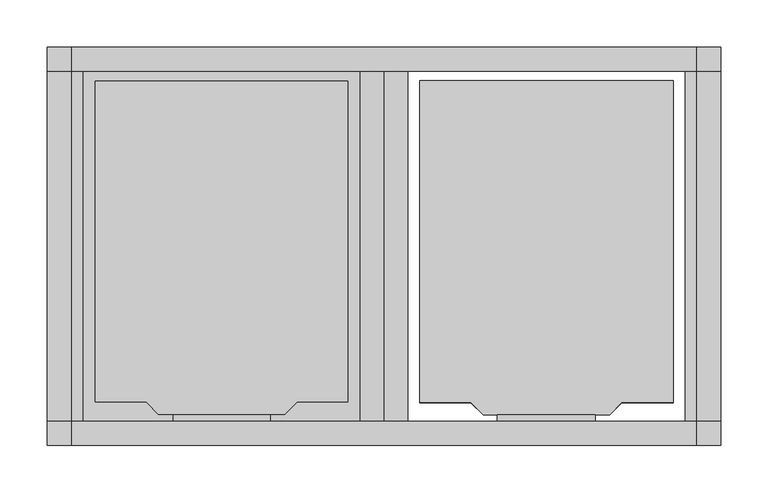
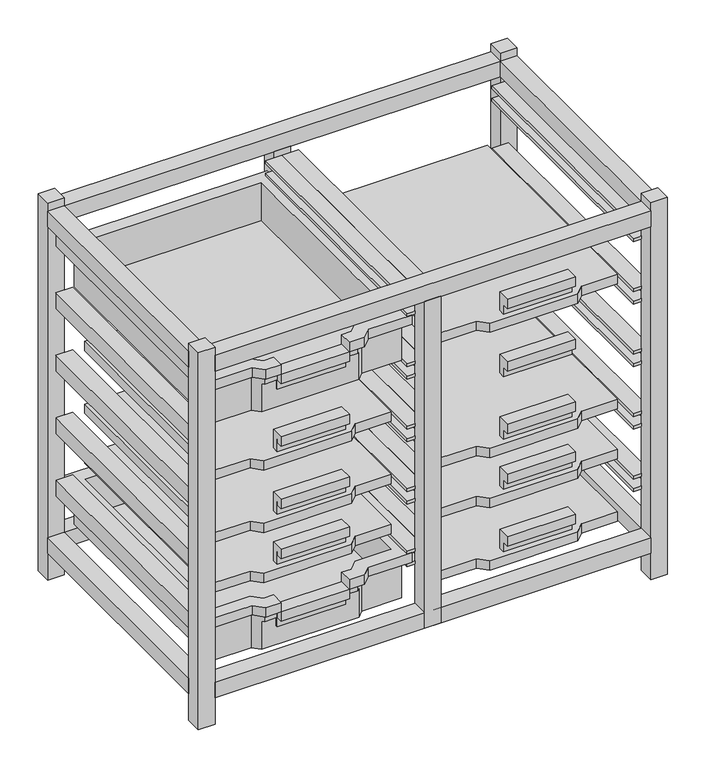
"""IFC4 building model written with IfcOpenShell, lengths in millimetres: furniture geometry, BIMHealth-Trolley_Gratnell-v1 : BIMHealth-Trolley_Gratnell-v1."""

import ifcopenshell
import ifcopenshell.guid

model = None  # the IFC model being written
_history = None  # IfcOwnerHistory: only IFC2X3 demands one
_inside = {}  # id of a spatial element -> (the spatial element, [elements in it])
_under = {}  # id of a project, library or spatial element -> (it, [spatial elements below it])
_declared = {}  # id of a project -> (the project, [libraries it declares])
_typed = {}  # id of a type object -> (the type object, [elements of that type])
_made_of = {}  # id of a material, layer set ... -> (it, [elements and type objects made of it])


def new_model(schema):
    """Start an empty IFC model of exactly this schema.

    Asked for "IFC4X3", IfcOpenShell would pick the latest addendum, in which some entities
    have other attributes; the version numbers below select the first issue.
    IFC2X3 requires an IfcOwnerHistory on every rooted entity: one is made here for all.
    """
    global model, _history
    if schema == "IFC4X3":
        model = ifcopenshell.file(schema_version=(4, 3, 0, 0))
    else:
        model = ifcopenshell.file(schema=schema)
    _inside.clear()
    _under.clear()
    _declared.clear()
    _typed.clear()
    _made_of.clear()
    _history = None
    if model.schema == "IFC2X3":
        org = make("IfcOrganization", Name="unknown")
        user = make(
            "IfcPersonAndOrganization",
            ThePerson=make("IfcPerson", FamilyName="unknown"),
            TheOrganization=org,
        )
        app = make(
            "IfcApplication",
            ApplicationDeveloper=org,
            Version="unknown",
            ApplicationFullName="unknown",
            ApplicationIdentifier="unknown",
        )
        _history = make(
            "IfcOwnerHistory",
            OwningUser=user,
            OwningApplication=app,
            ChangeAction="ADDED",
            CreationDate=0,
        )
    return model


def make(cls, **values):
    """One entity of the class cls with the attributes given. An attribute that is None is left unset."""
    return model.create_entity(
        cls, **{name: value for name, value in values.items() if value is not None}
    )


def rooted(cls, **values):
    """An entity with a GlobalId (a new one), such as an element, a storey or a relation."""
    return make(cls, GlobalId=ifcopenshell.guid.new(), OwnerHistory=_history, **values)


def si_unit(unit_type, name, prefix=None):
    """IfcSIUnit, for example si_unit("LENGTHUNIT", "METRE", prefix="MILLI")."""
    return make("IfcSIUnit", UnitType=unit_type, Prefix=prefix, Name=name)


def assignment(units):
    """IfcUnitAssignment: the units of a project."""
    return None if units is None else make("IfcUnitAssignment", Units=units)


def point(xyz):
    """IfcCartesianPoint."""
    return None if xyz is None else make("IfcCartesianPoint", Coordinates=xyz)


def direction(xyz):
    """IfcDirection."""
    return None if xyz is None else make("IfcDirection", DirectionRatios=xyz)


def frame(location, z_axis=None, x_axis=None):
    """IfcAxis2Placement3D, a coordinate frame: its origin and axes. An axis left out is left unset."""
    return make(
        "IfcAxis2Placement3D",
        Location=point(location),
        Axis=direction(z_axis),
        RefDirection=direction(x_axis),
    )


def origin():
    """The frame at (0, 0, 0) with its axes left unset."""
    return frame((0.0, 0.0, 0.0))


def place(relative_to, where):
    """IfcLocalPlacement: puts the frame where relative to a parent placement (None: the world)."""
    return make(
        "IfcLocalPlacement", PlacementRelTo=relative_to, RelativePlacement=where
    )


def context(
    kind, dimensions, precision=None, world=None, true_north=None, identifier=None
):
    """IfcGeometricRepresentationContext, for example the 3D "Model" context."""
    return make(
        "IfcGeometricRepresentationContext",
        ContextIdentifier=identifier,
        ContextType=kind,
        CoordinateSpaceDimension=dimensions,
        Precision=precision,
        WorldCoordinateSystem=world,
        TrueNorth=true_north,
    )


def project(units=None, contexts=None):
    """IfcProject with its units and contexts."""
    return rooted(
        "IfcProject",
        Name="project",
        RepresentationContexts=contexts,
        UnitsInContext=assignment(units),
    )


def spatial(cls, under=None, at=None, **own):
    """A site, building, storey or space (cls), placed at a placement, below another one or the project."""
    s = rooted(cls, ObjectPlacement=at, **own)
    if under is not None:
        _under.setdefault(under.id(), (under, []))[1].append(s)
    return s


def polyline(points):
    """IfcPolyline through the points."""
    return make("IfcPolyline", Points=[point(p) for p in points])


def outline(outer, holes=None, kind="AREA"):
    """IfcArbitraryClosedProfileDef: a profile drawn as a closed curve; with holes, ...WithVoids."""
    if holes is None:
        return make("IfcArbitraryClosedProfileDef", ProfileType=kind, OuterCurve=outer)
    return make(
        "IfcArbitraryProfileDefWithVoids",
        ProfileType=kind,
        OuterCurve=outer,
        InnerCurves=holes,
    )


def extrude(swept, where, along, depth):
    """IfcExtrudedAreaSolid: the profile swept, set in the frame where, extruded along a direction by depth."""
    return make(
        "IfcExtrudedAreaSolid",
        SweptArea=swept,
        Position=where,
        ExtrudedDirection=direction(along),
        Depth=depth,
    )


def faces_of(points, faces, orient=None, outer=None):
    """IfcFace entities. A face is a list of loops; a loop is a list of indices into points, from 0.

    orient and outer hold one flag for each loop. By default every Orientation is true, the
    first loop of a face is its IfcFaceOuterBound and the others are IfcFaceBound.
    """
    made = []
    for i, loops in enumerate(faces):
        bounds = []
        for j, loop in enumerate(loops):
            is_outer = j == 0 if outer is None else outer[i][j]
            bounds.append(
                make(
                    "IfcFaceOuterBound" if is_outer else "IfcFaceBound",
                    Bound=make("IfcPolyLoop", Polygon=[points[k] for k in loop]),
                    Orientation=True if orient is None else orient[i][j],
                )
            )
        made.append(make("IfcFace", Bounds=bounds))
    return made


def faceted_brep(points, faces, orient=None, outer=None, voids=None):
    """IfcFacetedBrep: a solid bounded by flat faces; with voids (closed shells), ...WithVoids."""
    shared = [point(p) for p in points]
    hull = make("IfcClosedShell", CfsFaces=faces_of(shared, faces, orient, outer))
    if voids is None:
        return make("IfcFacetedBrep", Outer=hull)
    return make(
        "IfcFacetedBrepWithVoids",
        Outer=hull,
        Voids=[
            make(cls, CfsFaces=faces_of(shared, fs, o, b)) for cls, fs, o, b in voids
        ],
    )


def shape(context_of_items, identifier, shape_type, items):
    """IfcShapeRepresentation: the items that make up one representation, for example the "Body"."""
    return make(
        "IfcShapeRepresentation",
        ContextOfItems=context_of_items,
        RepresentationIdentifier=identifier,
        RepresentationType=shape_type,
        Items=items,
    )


def source(mapping_origin, context_of_items, identifier, shape_type, items):
    """IfcRepresentationMap: a shape defined once, which mapped items show again and again."""
    return make(
        "IfcRepresentationMap",
        MappingOrigin=mapping_origin,
        MappedRepresentation=shape(context_of_items, identifier, shape_type, items),
    )


def transform(
    local_origin,
    x_axis=None,
    y_axis=None,
    z_axis=None,
    scale=None,
    scale2=None,
    scale3=None,
    uniform=True,
):
    """IfcCartesianTransformationOperator3D, or its non-uniform kind. x_axis, y_axis, z_axis: its Axis1, 2, 3."""
    if uniform:
        return make(
            "IfcCartesianTransformationOperator3D",
            Axis1=direction(x_axis),
            Axis2=direction(y_axis),
            LocalOrigin=point(local_origin),
            Scale=scale,
            Axis3=direction(z_axis),
        )
    return make(
        "IfcCartesianTransformationOperator3DnonUniform",
        Axis1=direction(x_axis),
        Axis2=direction(y_axis),
        LocalOrigin=point(local_origin),
        Scale=scale,
        Axis3=direction(z_axis),
        Scale2=scale2,
        Scale3=scale3,
    )


def mapped(mapping_source, mapping_target):
    """IfcMappedItem: shows the shape of a source again, moved by a transform."""
    return make(
        "IfcMappedItem", MappingSource=mapping_source, MappingTarget=mapping_target
    )


def made_of(thing, what):
    """Note that an element or type object is made of a material, layer set ...; save() writes the relation."""
    if what is not None:
        _made_of.setdefault(what.id(), (what, []))[1].append(thing)
    return thing


def element(
    cls,
    number,
    at=None,
    inside=None,
    cuts=None,
    type_object=None,
    material=None,
    context=None,
    identifier="Body",
    shape_type=None,
    held_by="IfcProductDefinitionShape",
    body=None,
    shapes=None,
    **own,
):
    """One element of the class cls, such as IfcWall. Its Tag is "e" and its number.

    at: its placement. inside: the storey or other place that contains it. cuts: it is an
    opening in that element (IfcRelVoidsElement). A single representation is given by context,
    identifier, shape_type and body (its items); several are given by shapes. held_by: the class
    of the entity that holds the representations. save() writes the other relations.
    """
    e = rooted(cls, Tag="e%d" % number, ObjectPlacement=at, **own)
    if body is not None:
        shapes = [shape(context, identifier, shape_type, body)]
    if shapes is not None:
        e.Representation = make(held_by, Representations=shapes)
    if inside is not None:
        _inside.setdefault(inside.id(), (inside, []))[1].append(e)
    if cuts is not None:
        rooted(
            "IfcRelVoidsElement", RelatingBuildingElement=cuts, RelatedOpeningElement=e
        )
    if type_object is not None:
        _typed.setdefault(type_object.id(), (type_object, []))[1].append(e)
    return made_of(e, material)


def aggregate(whole, parts):
    """IfcRelAggregates: a whole, such as a stair, and the parts it consists of."""
    return rooted("IfcRelAggregates", RelatingObject=whole, RelatedObjects=parts)


def save(model, path):
    """Write the relations noted so far, then the file.

    IfcRelAggregates (storeys below a building ...), IfcRelContainedInSpatialStructure (elements
    in a storey), IfcRelDefinesByType, IfcRelAssociatesMaterial and IfcRelDeclares: one each for
    every whole, place, type object, material and project.
    """
    for whole, parts in _under.values():
        aggregate(whole, parts)
    for where, things in _inside.values():
        rooted(
            "IfcRelContainedInSpatialStructure",
            RelatedElements=things,
            RelatingStructure=where,
        )
    for kind, things in _typed.values():
        rooted("IfcRelDefinesByType", RelatedObjects=things, RelatingType=kind)
    for what, things in _made_of.values():
        rooted("IfcRelAssociatesMaterial", RelatedObjects=things, RelatingMaterial=what)
    for by, libraries in _declared.values():
        rooted("IfcRelDeclares", RelatingContext=by, RelatedDefinitions=libraries)
    model.write(path)


def furniture_500bc087(model_context):
    return source(origin(), model_context, "Body", "SolidModel", [
        faceted_brep([(-119.5710678, -187.9289322, 622.2775188), (-119.5710678, -187.9289322, 642.2775188), (-119.5710678, -189.1789322, 642.2775188), (-119.5710678, -189.1789322, 637.2775188), (-119.5710678, -197.9289322, 637.2775188), (-119.5710678, -197.9289322, 652.2775188), (-119.5710678, -177.9289322, 652.2775188), (-119.5710678, -177.9289322, 607.2775188), (-119.5710678, -185.0, 607.2775188), (-119.5710678, -185.0, 622.2775188), (-86.982233, -176.25, 637.2775188), (-86.982233, -176.25, 642.2775188), (-26.25, -176.25, 642.2775188), (-26.25, -176.25, 637.2775188), (-27.5, -175.0, 642.2775188), (-87.5, -175.0, 642.2775188), (-87.5, -175.0, 577.2775188), (-27.5, -175.0, 577.2775188), (-26.25, 186.25, 642.2775188), (-26.25, 186.25, 637.2775188), (-27.5, 185.0, 642.2775188), (-27.5, 185.0, 577.2775188), (-316.25, 186.25, 642.2775188), (-316.25, 186.25, 637.2775188), (-315.0, 185.0, 642.2775188), (-315.0, 185.0, 577.2775188), (-316.25, -176.25, 642.2775188), (-316.25, -176.25, 637.2775188), (-315.0, -175.0, 642.2775188), (-315.0, -175.0, 577.2775188), (-222.9289322, -177.9289322, 652.2775188), (-222.9289322, -197.9289322, 652.2775188), (-222.9289322, -197.9289322, 637.2775188), (-222.9289322, -189.1789322, 637.2775188), (-222.9289322, -189.1789322, 642.2775188), (-222.9289322, -187.9289322, 642.2775188), (-222.9289322, -187.9289322, 622.2775188), (-222.9289322, -185.0, 622.2775188), (-222.9289322, -185.0, 607.2775188), (-222.9289322, -177.9289322, 607.2775188), (-255.517767, -176.25, 642.2775188), (-255.517767, -176.25, 637.2775188), (-255.0, -175.0, 642.2775188), (-255.0, -175.0, 577.2775188), (-83.3578644, -185.0, 652.2775188), (-83.3578644, -185.0, 637.2775188), (-17.5, -185.0, 637.2775188), (-17.5, -185.0, 652.2775188), (-91.6421356, -165.0, 652.2775188), (-37.5, -165.0, 652.2775188), (-37.5, -165.0, 577.2775188), (-91.6421356, -165.0, 577.2775188), (-17.5, 195.0, 637.2775188), (-17.5, 195.0, 652.2775188), (-37.5, 175.0, 652.2775188), (-37.5, 175.0, 577.2775188), (-325.0, 195.0, 637.2775188), (-325.0, 195.0, 652.2775188), (-305.0, 175.0, 652.2775188), (-305.0, 175.0, 577.2775188), (-325.0, -185.0, 637.2775188), (-325.0, -185.0, 652.2775188), (-305.0, -165.0, 652.2775188), (-305.0, -165.0, 577.2775188), (-259.1421356, -185.0, 637.2775188), (-259.1421356, -185.0, 652.2775188), (-250.8578644, -165.0, 652.2775188), (-250.8578644, -165.0, 577.2775188), (-100.4289322, -187.9289322, 642.2775188), (-100.4289322, -187.9289322, 622.2775188), (-97.5, -185.0, 622.2775188), (-97.5, -185.0, 577.2775188), (-99.9111652, -189.1789322, 637.2775188), (-99.9111652, -189.1789322, 642.2775188), (-96.2867966, -197.9289322, 652.2775188), (-96.2867966, -197.9289322, 637.2775188), (-104.5710678, -177.9289322, 652.2775188), (-104.5710678, -177.9289322, 577.2775188), (-242.0710678, -187.9289322, 622.2775188), (-242.0710678, -187.9289322, 642.2775188), (-245.0, -185.0, 577.2775188), (-245.0, -185.0, 622.2775188), (-242.5888348, -189.1789322, 642.2775188), (-242.5888348, -189.1789322, 637.2775188), (-246.2132034, -197.9289322, 637.2775188), (-246.2132034, -197.9289322, 652.2775188), (-237.9289322, -177.9289322, 652.2775188), (-237.9289322, -177.9289322, 577.2775188)], [[[0, 1, 2, 3, 4, 5, 6, 7, 8, 9]], [[10, 11, 12, 13]], [[14, 15, 16, 17]], [[13, 12, 18, 19]], [[20, 14, 17, 21]], [[19, 18, 22, 23]], [[24, 20, 21, 25]], [[23, 22, 26, 27]], [[28, 24, 25, 29]], [[30, 31, 32, 33, 34, 35, 36, 37, 38, 39]], [[27, 26, 40, 41]], [[42, 28, 29, 43]], [[44, 45, 46, 47]], [[48, 49, 50, 51]], [[47, 46, 52, 53]], [[50, 49, 54, 55]], [[53, 52, 56, 57]], [[55, 54, 58, 59]], [[57, 56, 60, 61]], [[59, 58, 62, 63]], [[61, 60, 64, 65]], [[63, 62, 66, 67]], [[68, 69, 70, 71, 16, 15]], [[11, 10, 72, 73]], [[45, 44, 74, 75]], [[76, 48, 51, 77]], [[78, 79, 42, 43, 80, 81]], [[41, 40, 82, 83]], [[65, 64, 84, 85]], [[67, 66, 86, 87]], [[1, 0, 69, 68]], [[2, 1, 68, 15, 14, 20, 24, 28, 42, 79, 35, 34, 82, 40, 26, 22, 18, 12, 11, 73]], [[3, 2, 73, 72]], [[4, 3, 72, 10, 13, 19, 23, 27, 41, 83, 33, 32, 84, 64, 60, 56, 52, 46, 45, 75]], [[5, 4, 75, 74]], [[6, 5, 74, 44, 47, 53, 57, 61, 65, 85, 31, 30, 86, 66, 62, 58, 54, 49, 48, 76]], [[6, 76, 77, 87, 86, 30, 39, 7]], [[69, 0, 9, 70]], [[36, 78, 81, 37]], [[36, 35, 79, 78]], [[34, 33, 83, 82]], [[32, 31, 85, 84]], [[9, 8, 38, 37, 81, 80, 71, 70]], [[7, 39, 38, 8]], [[21, 17, 16, 71, 80, 43, 29, 25], [55, 59, 63, 67, 87, 77, 51, 50]]]),
        extrude(outline(polyline([(-187.9289322, 607.2775188), (-187.9289322, 627.2775188), (-189.1789322, 627.2775188), (-189.1789322, 622.2775188), (-197.9289322, 622.2775188), (-197.9289322, 637.2775188), (-177.9289322, 637.2775188), (-177.9289322, 607.2775188), (-187.9289322, 607.2775188)])), frame((119.5710678, 0.0, 0.0), z_axis=(1.0, 0.0, 0.0), x_axis=(0.0, 1.0, 0.0)), (0.0, 0.0, 1.0), 103.3578644),
        extrude(outline(polyline([(37.5, 175.0), (305.0, 175.0), (305.0, -165.0), (250.8578644, -165.0), (237.9289322, -177.9289322), (104.5710678, -177.9289322), (91.6421356, -165.0), (37.5, -165.0), (37.5, 175.0)])), frame((0.0, 0.0, 577.2775188), z_axis=(0.0, 0.0, 1.0), x_axis=(1.0, 0.0, 0.0)), (0.0, 0.0, 1.0), 15.0),
        extrude(outline(polyline([(-187.9289322, 507.2775188), (-187.9289322, 527.2775188), (-189.1789322, 527.2775188), (-189.1789322, 522.2775188), (-197.9289322, 522.2775188), (-197.9289322, 537.2775188), (-177.9289322, 537.2775188), (-177.9289322, 507.2775188), (-187.9289322, 507.2775188)])), frame((119.5710678, 0.0, 0.0), z_axis=(1.0, 0.0, 0.0), x_axis=(0.0, 1.0, 0.0)), (0.0, 0.0, 1.0), 103.3578644),
        extrude(outline(polyline([(-187.9289322, 407.2775188), (-187.9289322, 427.2775188), (-189.1789322, 427.2775188), (-189.1789322, 422.2775188), (-197.9289322, 422.2775188), (-197.9289322, 437.2775188), (-177.9289322, 437.2775188), (-177.9289322, 407.2775188), (-187.9289322, 407.2775188)])), frame((119.5710678, 0.0, 0.0), z_axis=(1.0, 0.0, 0.0), x_axis=(0.0, 1.0, 0.0)), (0.0, 0.0, 1.0), 103.3578644),
        extrude(outline(polyline([(37.5, 175.0), (305.0, 175.0), (305.0, -165.0), (250.8578644, -165.0), (237.9289322, -177.9289322), (104.5710678, -177.9289322), (91.6421356, -165.0), (37.5, -165.0), (37.5, 175.0)])), frame((0.0, 0.0, 377.2775188), z_axis=(0.0, 0.0, 1.0), x_axis=(1.0, 0.0, 0.0)), (0.0, 0.0, 1.0), 15.0),
        extrude(outline(polyline([(-187.9289322, 327.2775188), (-187.9289322, 347.2775188), (-189.1789322, 347.2775188), (-189.1789322, 342.2775188), (-197.9289322, 342.2775188), (-197.9289322, 357.2775188), (-177.9289322, 357.2775188), (-177.9289322, 327.2775188), (-187.9289322, 327.2775188)])), frame((119.5710678, 0.0, 0.0), z_axis=(1.0, 0.0, 0.0), x_axis=(0.0, 1.0, 0.0)), (0.0, 0.0, 1.0), 103.3578644),
        extrude(outline(polyline([(37.5, 175.0), (305.0, 175.0), (305.0, -165.0), (250.8578644, -165.0), (237.9289322, -177.9289322), (104.5710678, -177.9289322), (91.6421356, -165.0), (37.5, -165.0), (37.5, 175.0)])), frame((0.0, 0.0, 297.2775188), z_axis=(0.0, 0.0, 1.0), x_axis=(1.0, 0.0, 0.0)), (0.0, 0.0, 1.0), 15.0),
        extrude(outline(polyline([(-187.9289322, 227.2775188), (-187.9289322, 247.2775188), (-189.1789322, 247.2775188), (-189.1789322, 242.2775188), (-197.9289322, 242.2775188), (-197.9289322, 257.2775188), (-177.9289322, 257.2775188), (-177.9289322, 227.2775188), (-187.9289322, 227.2775188)])), frame((119.5710678, 0.0, 0.0), z_axis=(1.0, 0.0, 0.0), x_axis=(0.0, 1.0, 0.0)), (0.0, 0.0, 1.0), 103.3578644),
        extrude(outline(polyline([(37.5, 175.0), (305.0, 175.0), (305.0, -165.0), (250.8578644, -165.0), (237.9289322, -177.9289322), (104.5710678, -177.9289322), (91.6421356, -165.0), (37.5, -165.0), (37.5, 175.0)])), frame((0.0, 0.0, 197.2775188), z_axis=(0.0, 0.0, 1.0), x_axis=(1.0, 0.0, 0.0)), (0.0, 0.0, 1.0), 15.0),
        extrude(outline(polyline([(-187.9289322, 607.2775188), (-187.9289322, 627.2775188), (-189.1789322, 627.2775188), (-189.1789322, 622.2775188), (-197.9289322, 622.2775188), (-197.9289322, 637.2775188), (-177.9289322, 637.2775188), (-177.9289322, 607.2775188), (-187.9289322, 607.2775188)])), frame((-222.9289322, 0.0, 0.0), z_axis=(1.0, 0.0, 0.0), x_axis=(0.0, 1.0, 0.0)), (0.0, 0.0, 1.0), 103.3578644),
        extrude(outline(polyline([(-37.5, 175.0), (-37.5, -165.0), (-91.6421356, -165.0), (-104.5710678, -177.9289322), (-237.9289322, -177.9289322), (-250.8578644, -165.0), (-305.0, -165.0), (-305.0, 175.0), (-37.5, 175.0)])), frame((0.0, 0.0, 577.2775188), z_axis=(0.0, 0.0, 1.0), x_axis=(1.0, 0.0, 0.0)), (0.0, 0.0, 1.0), 15.0),
        extrude(outline(polyline([(-187.9289322, 507.2775188), (-187.9289322, 527.2775188), (-189.1789322, 527.2775188), (-189.1789322, 522.2775188), (-197.9289322, 522.2775188), (-197.9289322, 537.2775188), (-177.9289322, 537.2775188), (-177.9289322, 507.2775188), (-187.9289322, 507.2775188)])), frame((-222.9289322, 0.0, 0.0), z_axis=(1.0, 0.0, 0.0), x_axis=(0.0, 1.0, 0.0)), (0.0, 0.0, 1.0), 103.3578644),
        extrude(outline(polyline([(-37.5, 175.0), (-37.5, -165.0), (-91.6421356, -165.0), (-104.5710678, -177.9289322), (-237.9289322, -177.9289322), (-250.8578644, -165.0), (-305.0, -165.0), (-305.0, 175.0), (-37.5, 175.0)])), frame((0.0, 0.0, 477.2775188), z_axis=(0.0, 0.0, 1.0), x_axis=(1.0, 0.0, 0.0)), (0.0, 0.0, 1.0), 15.0),
        extrude(outline(polyline([(-187.9289322, 407.2775188), (-187.9289322, 427.2775188), (-189.1789322, 427.2775188), (-189.1789322, 422.2775188), (-197.9289322, 422.2775188), (-197.9289322, 437.2775188), (-177.9289322, 437.2775188), (-177.9289322, 407.2775188), (-187.9289322, 407.2775188)])), frame((-222.9289322, 0.0, 0.0), z_axis=(1.0, 0.0, 0.0), x_axis=(0.0, 1.0, 0.0)), (0.0, 0.0, 1.0), 103.3578644),
        extrude(outline(polyline([(-37.5, 175.0), (-37.5, -165.0), (-91.6421356, -165.0), (-104.5710678, -177.9289322), (-237.9289322, -177.9289322), (-250.8578644, -165.0), (-305.0, -165.0), (-305.0, 175.0), (-37.5, 175.0)])), frame((0.0, 0.0, 377.2775188), z_axis=(0.0, 0.0, 1.0), x_axis=(1.0, 0.0, 0.0)), (0.0, 0.0, 1.0), 15.0),
        extrude(outline(polyline([(-187.9289322, 327.2775188), (-187.9289322, 347.2775188), (-189.1789322, 347.2775188), (-189.1789322, 342.2775188), (-197.9289322, 342.2775188), (-197.9289322, 357.2775188), (-177.9289322, 357.2775188), (-177.9289322, 327.2775188), (-187.9289322, 327.2775188)])), frame((-222.9289322, 0.0, 0.0), z_axis=(1.0, 0.0, 0.0), x_axis=(0.0, 1.0, 0.0)), (0.0, 0.0, 1.0), 103.3578644),
        extrude(outline(polyline([(-37.5, 175.0), (-37.5, -165.0), (-91.6421356, -165.0), (-104.5710678, -177.9289322), (-237.9289322, -177.9289322), (-250.8578644, -165.0), (-305.0, -165.0), (-305.0, 175.0), (-37.5, 175.0)])), frame((0.0, 0.0, 297.2775188), z_axis=(0.0, 0.0, 1.0), x_axis=(1.0, 0.0, 0.0)), (0.0, 0.0, 1.0), 15.0),
        extrude(outline(polyline([(-187.9289322, 227.2775188), (-187.9289322, 247.2775188), (-189.1789322, 247.2775188), (-189.1789322, 242.2775188), (-197.9289322, 242.2775188), (-197.9289322, 257.2775188), (-177.9289322, 257.2775188), (-177.9289322, 227.2775188), (-187.9289322, 227.2775188)])), frame((-222.9289322, 0.0, 0.0), z_axis=(1.0, 0.0, 0.0), x_axis=(0.0, 1.0, 0.0)), (0.0, 0.0, 1.0), 103.3578644),
        faceted_brep([(-37.5, -165.0, 212.2775188), (-37.5, 175.0, 212.2775188), (-305.0, 175.0, 212.2775188), (-305.0, -165.0, 212.2775188), (-250.8578644, -165.0, 212.2775188), (-237.9289322, -177.9289322, 212.2775188), (-104.5710678, -177.9289322, 212.2775188), (-91.6421356, -165.0, 212.2775188), (-27.5, 185.0, 197.2775188), (-27.5, -175.0, 197.2775188), (-87.5, -175.0, 197.2775188), (-97.5, -185.0, 197.2775188), (-245.0, -185.0, 197.2775188), (-255.0, -175.0, 197.2775188), (-315.0, -175.0, 197.2775188), (-315.0, 185.0, 197.2775188), (-222.9289322, -185.0, 227.2775188), (-119.5710678, -185.0, 227.2775188), (-119.5710678, -177.9289322, 227.2775188), (-222.9289322, -177.9289322, 227.2775188), (-315.0, 185.0, 262.2775188), (-27.5, 185.0, 262.2775188), (-315.0, -175.0, 262.2775188), (-27.5, -175.0, 262.2775188), (-37.5, -165.0, 272.2775188), (-37.5, 175.0, 272.2775188), (-305.0, 175.0, 272.2775188), (-305.0, -165.0, 272.2775188), (-255.0, -175.0, 262.2775188), (-245.0, -185.0, 242.2775188), (-242.0710678, -187.9289322, 242.2775188), (-242.0710678, -187.9289322, 262.2775188), (-97.5, -185.0, 242.2775188), (-119.5710678, -185.0, 242.2775188), (-222.9289322, -185.0, 242.2775188), (-87.5, -175.0, 262.2775188), (-100.4289322, -187.9289322, 262.2775188), (-100.4289322, -187.9289322, 242.2775188), (-91.6421356, -165.0, 272.2775188), (-104.5710678, -177.9289322, 272.2775188), (-237.9289322, -177.9289322, 272.2775188), (-222.9289322, -177.9289322, 272.2775188), (-119.5710678, -177.9289322, 272.2775188), (-250.8578644, -165.0, 272.2775188), (-119.5710678, -187.9289322, 242.2775188), (-119.5710678, -187.9289322, 262.2775188), (-119.5710678, -189.1789322, 262.2775188), (-119.5710678, -189.1789322, 257.2775188), (-119.5710678, -197.9289322, 257.2775188), (-119.5710678, -197.9289322, 272.2775188), (-222.9289322, -197.9289322, 272.2775188), (-222.9289322, -197.9289322, 257.2775188), (-222.9289322, -189.1789322, 257.2775188), (-222.9289322, -189.1789322, 262.2775188), (-222.9289322, -187.9289322, 262.2775188), (-222.9289322, -187.9289322, 242.2775188), (-86.982233, -176.25, 257.2775188), (-86.982233, -176.25, 262.2775188), (-26.25, -176.25, 262.2775188), (-26.25, -176.25, 257.2775188), (-26.25, 186.25, 262.2775188), (-26.25, 186.25, 257.2775188), (-316.25, 186.25, 262.2775188), (-316.25, 186.25, 257.2775188), (-316.25, -176.25, 262.2775188), (-316.25, -176.25, 257.2775188), (-255.517767, -176.25, 262.2775188), (-255.517767, -176.25, 257.2775188), (-83.3578644, -185.0, 272.2775188), (-83.3578644, -185.0, 257.2775188), (-17.5, -185.0, 257.2775188), (-17.5, -185.0, 272.2775188), (-17.5, 195.0, 257.2775188), (-17.5, 195.0, 272.2775188), (-325.0, 195.0, 257.2775188), (-325.0, 195.0, 272.2775188), (-325.0, -185.0, 257.2775188), (-325.0, -185.0, 272.2775188), (-259.1421356, -185.0, 257.2775188), (-259.1421356, -185.0, 272.2775188), (-99.9111652, -189.1789322, 257.2775188), (-99.9111652, -189.1789322, 262.2775188), (-96.2867966, -197.9289322, 272.2775188), (-96.2867966, -197.9289322, 257.2775188), (-242.5888348, -189.1789322, 262.2775188), (-242.5888348, -189.1789322, 257.2775188), (-246.2132034, -197.9289322, 257.2775188), (-246.2132034, -197.9289322, 272.2775188)], [[[0, 1, 2, 3, 4, 5, 6, 7]], [[8, 9, 10, 11, 12, 13, 14, 15]], [[16, 17, 18, 19]], [[8, 15, 20, 21]], [[20, 15, 14, 22]], [[9, 8, 21, 23]], [[1, 0, 24, 25]], [[3, 2, 26, 27]], [[26, 2, 1, 25]], [[22, 14, 13, 28]], [[28, 13, 12, 29, 30, 31]], [[12, 11, 32, 33, 17, 16, 34, 29]], [[11, 10, 35, 36, 37, 32]], [[35, 10, 9, 23]], [[24, 0, 7, 38]], [[38, 7, 6, 39]], [[39, 6, 5, 40, 41, 19, 18, 42]], [[40, 5, 4, 43]], [[43, 4, 3, 27]], [[42, 18, 17, 33, 44, 45, 46, 47, 48, 49]], [[19, 41, 50, 51, 52, 53, 54, 55, 34, 16]], [[56, 57, 58, 59]], [[59, 58, 60, 61]], [[61, 60, 62, 63]], [[63, 62, 64, 65]], [[65, 64, 66, 67]], [[68, 69, 70, 71]], [[71, 70, 72, 73]], [[73, 72, 74, 75]], [[75, 74, 76, 77]], [[77, 76, 78, 79]], [[57, 56, 80, 81]], [[69, 68, 82, 83]], [[67, 66, 84, 85]], [[79, 78, 86, 87]], [[45, 44, 37, 36]], [[46, 45, 36, 35, 23, 21, 20, 22, 28, 31, 54, 53, 84, 66, 64, 62, 60, 58, 57, 81]], [[47, 46, 81, 80]], [[48, 47, 80, 56, 59, 61, 63, 65, 67, 85, 52, 51, 86, 78, 76, 74, 72, 70, 69, 83]], [[49, 48, 83, 82]], [[42, 49, 82, 68, 71, 73, 75, 77, 79, 87, 50, 41, 40, 43, 27, 26, 25, 24, 38, 39]], [[37, 44, 33, 32]], [[55, 30, 29, 34]], [[55, 54, 31, 30]], [[53, 52, 85, 84]], [[51, 50, 87, 86]]]),
        extrude(outline(polyline([(277.2775188, 0.0), (252.2775188, 0.0), (252.2775188, 25.0), (257.2775188, 25.0), (257.2775188, 5.0), (272.2775188, 5.0), (272.2775188, 25.0), (277.2775188, 25.0), (277.2775188, 0.0)])), frame((0.0, -185.0, 0.0), z_axis=(0.0, 1.0, 0.0), x_axis=(0.0, 0.0, 1.0)), (0.0, 0.0, 1.0), 370.0),
        extrude(outline(polyline([(377.2775188, 0.0), (352.2775188, 0.0), (352.2775188, 25.0), (357.2775188, 25.0), (357.2775188, 5.0), (372.2775188, 5.0), (372.2775188, 25.0), (377.2775188, 25.0), (377.2775188, 0.0)])), frame((0.0, -185.0, 0.0), z_axis=(0.0, 1.0, 0.0), x_axis=(0.0, 0.0, 1.0)), (0.0, 0.0, 1.0), 370.0),
        extrude(outline(polyline([(477.2775188, 0.0), (452.2775188, 0.0), (452.2775188, 25.0), (457.2775188, 25.0), (457.2775188, 5.0), (472.2775188, 5.0), (472.2775188, 25.0), (477.2775188, 25.0), (477.2775188, 0.0)])), frame((0.0, -185.0, 0.0), z_axis=(0.0, 1.0, 0.0), x_axis=(0.0, 0.0, 1.0)), (0.0, 0.0, 1.0), 370.0),
        extrude(outline(polyline([(577.2775188, 0.0), (552.2775188, 0.0), (552.2775188, 25.0), (557.2775188, 25.0), (557.2775188, 5.0), (572.2775188, 5.0), (572.2775188, 25.0), (577.2775188, 25.0), (577.2775188, 0.0)])), frame((0.0, -185.0, 0.0), z_axis=(0.0, 1.0, 0.0), x_axis=(0.0, 0.0, 1.0)), (0.0, 0.0, 1.0), 370.0),
        extrude(outline(polyline([(677.2775188, 0.0), (652.2775188, 0.0), (652.2775188, 25.0), (657.2775188, 25.0), (657.2775188, 5.0), (672.2775188, 5.0), (672.2775188, 25.0), (677.2775188, 25.0), (677.2775188, 0.0)])), frame((0.0, -185.0, 0.0), z_axis=(0.0, 1.0, 0.0), x_axis=(0.0, 0.0, 1.0)), (0.0, 0.0, 1.0), 370.0),
        extrude(outline(polyline([(277.2775188, 0.0), (277.2775188, -25.0), (272.2775188, -25.0), (272.2775188, -5.0), (257.2775188, -5.0), (257.2775188, -25.0), (252.2775188, -25.0), (252.2775188, 0.0), (277.2775188, 0.0)])), frame((0.0, -185.0, 0.0), z_axis=(0.0, 1.0, 0.0), x_axis=(0.0, 0.0, 1.0)), (0.0, 0.0, 1.0), 370.0),
        extrude(outline(polyline([(377.2775188, 0.0), (377.2775188, -25.0), (372.2775188, -25.0), (372.2775188, -5.0), (357.2775188, -5.0), (357.2775188, -25.0), (352.2775188, -25.0), (352.2775188, 0.0), (377.2775188, 0.0)])), frame((0.0, -185.0, 0.0), z_axis=(0.0, 1.0, 0.0), x_axis=(0.0, 0.0, 1.0)), (0.0, 0.0, 1.0), 370.0),
        extrude(outline(polyline([(477.2775188, 0.0), (477.2775188, -25.0), (472.2775188, -25.0), (472.2775188, -5.0), (457.2775188, -5.0), (457.2775188, -25.0), (452.2775188, -25.0), (452.2775188, 0.0), (477.2775188, 0.0)])), frame((0.0, -185.0, 0.0), z_axis=(0.0, 1.0, 0.0), x_axis=(0.0, 0.0, 1.0)), (0.0, 0.0, 1.0), 370.0),
        extrude(outline(polyline([(577.2775188, 0.0), (577.2775188, -25.0), (572.2775188, -25.0), (572.2775188, -5.0), (557.2775188, -5.0), (557.2775188, -25.0), (552.2775188, -25.0), (552.2775188, 0.0), (577.2775188, 0.0)])), frame((0.0, -185.0, 0.0), z_axis=(0.0, 1.0, 0.0), x_axis=(0.0, 0.0, 1.0)), (0.0, 0.0, 1.0), 370.0),
        extrude(outline(polyline([(677.2775188, 0.0), (677.2775188, -25.0), (672.2775188, -25.0), (672.2775188, -5.0), (657.2775188, -5.0), (657.2775188, -25.0), (652.2775188, -25.0), (652.2775188, 0.0), (677.2775188, 0.0)])), frame((0.0, -185.0, 0.0), z_axis=(0.0, 1.0, 0.0), x_axis=(0.0, 0.0, 1.0)), (0.0, 0.0, 1.0), 370.0),
        extrude(outline(polyline([(-12.5, 210.0), (12.5, 210.0), (12.5, 185.0), (-12.5, 185.0), (-12.5, 210.0)])), frame((0.0, 0.0, 164.7775188), z_axis=(0.0, 0.0, 1.0), x_axis=(1.0, 0.0, 0.0)), (0.0, 0.0, 1.0), 522.5),
        extrude(outline(polyline([(12.5, -210.0), (-12.5, -210.0), (-12.5, -185.0), (12.5, -185.0), (12.5, -210.0)])), frame((0.0, 0.0, 164.7775188), z_axis=(0.0, 0.0, 1.0), x_axis=(1.0, 0.0, 0.0)), (0.0, 0.0, 1.0), 522.5),
        extrude(outline(polyline([(277.2775188, 342.5), (277.2775188, 317.5), (272.2775188, 317.5), (272.2775188, 337.5), (257.2775188, 337.5), (257.2775188, 317.5), (252.2775188, 317.5), (252.2775188, 342.5), (277.2775188, 342.5)])), frame((0.0, -185.0, 0.0), z_axis=(0.0, 1.0, 0.0), x_axis=(0.0, 0.0, 1.0)), (0.0, 0.0, 1.0), 370.0),
        extrude(outline(polyline([(377.2775188, 342.5), (377.2775188, 317.5), (372.2775188, 317.5), (372.2775188, 337.5), (357.2775188, 337.5), (357.2775188, 317.5), (352.2775188, 317.5), (352.2775188, 342.5), (377.2775188, 342.5)])), frame((0.0, -185.0, 0.0), z_axis=(0.0, 1.0, 0.0), x_axis=(0.0, 0.0, 1.0)), (0.0, 0.0, 1.0), 370.0),
        extrude(outline(polyline([(477.2775188, 342.5), (477.2775188, 317.5), (472.2775188, 317.5), (472.2775188, 337.5), (457.2775188, 337.5), (457.2775188, 317.5), (452.2775188, 317.5), (452.2775188, 342.5), (477.2775188, 342.5)])), frame((0.0, -185.0, 0.0), z_axis=(0.0, 1.0, 0.0), x_axis=(0.0, 0.0, 1.0)), (0.0, 0.0, 1.0), 370.0),
        extrude(outline(polyline([(577.2775188, 342.5), (577.2775188, 317.5), (572.2775188, 317.5), (572.2775188, 337.5), (557.2775188, 337.5), (557.2775188, 317.5), (552.2775188, 317.5), (552.2775188, 342.5), (577.2775188, 342.5)])), frame((0.0, -185.0, 0.0), z_axis=(0.0, 1.0, 0.0), x_axis=(0.0, 0.0, 1.0)), (0.0, 0.0, 1.0), 370.0),
        extrude(outline(polyline([(677.2775188, 342.5), (677.2775188, 317.5), (672.2775188, 317.5), (672.2775188, 337.5), (657.2775188, 337.5), (657.2775188, 317.5), (652.2775188, 317.5), (652.2775188, 342.5), (677.2775188, 342.5)])), frame((0.0, -185.0, 0.0), z_axis=(0.0, 1.0, 0.0), x_axis=(0.0, 0.0, 1.0)), (0.0, 0.0, 1.0), 370.0),
        extrude(outline(polyline([(277.2775188, -342.5), (252.2775188, -342.5), (252.2775188, -317.5), (257.2775188, -317.5), (257.2775188, -337.5), (272.2775188, -337.5), (272.2775188, -317.5), (277.2775188, -317.5), (277.2775188, -342.5)])), frame((0.0, -185.0, 0.0), z_axis=(0.0, 1.0, 0.0), x_axis=(0.0, 0.0, 1.0)), (0.0, 0.0, 1.0), 370.0),
        extrude(outline(polyline([(377.2775188, -342.5), (352.2775188, -342.5), (352.2775188, -317.5), (357.2775188, -317.5), (357.2775188, -337.5), (372.2775188, -337.5), (372.2775188, -317.5), (377.2775188, -317.5), (377.2775188, -342.5)])), frame((0.0, -185.0, 0.0), z_axis=(0.0, 1.0, 0.0), x_axis=(0.0, 0.0, 1.0)), (0.0, 0.0, 1.0), 370.0),
        extrude(outline(polyline([(477.2775188, -342.5), (452.2775188, -342.5), (452.2775188, -317.5), (457.2775188, -317.5), (457.2775188, -337.5), (472.2775188, -337.5), (472.2775188, -317.5), (477.2775188, -317.5), (477.2775188, -342.5)])), frame((0.0, -185.0, 0.0), z_axis=(0.0, 1.0, 0.0), x_axis=(0.0, 0.0, 1.0)), (0.0, 0.0, 1.0), 370.0),
        extrude(outline(polyline([(577.2775188, -342.5), (552.2775188, -342.5), (552.2775188, -317.5), (557.2775188, -317.5), (557.2775188, -337.5), (572.2775188, -337.5), (572.2775188, -317.5), (577.2775188, -317.5), (577.2775188, -342.5)])), frame((0.0, -185.0, 0.0), z_axis=(0.0, 1.0, 0.0), x_axis=(0.0, 0.0, 1.0)), (0.0, 0.0, 1.0), 370.0),
        extrude(outline(polyline([(677.2775188, -342.5), (652.2775188, -342.5), (652.2775188, -317.5), (657.2775188, -317.5), (657.2775188, -337.5), (672.2775188, -337.5), (672.2775188, -317.5), (677.2775188, -317.5), (677.2775188, -342.5)])), frame((0.0, -185.0, 0.0), z_axis=(0.0, 1.0, 0.0), x_axis=(0.0, 0.0, 1.0)), (0.0, 0.0, 1.0), 370.0),
        extrude(outline(polyline([(330.0, 210.0), (330.0, 185.0), (-330.0, 185.0), (-330.0, 210.0), (330.0, 210.0)])), frame((0.0, 0.0, 687.2775188), z_axis=(0.0, 0.0, 1.0), x_axis=(1.0, 0.0, 0.0)), (0.0, 0.0, 1.0), 25.0),
        extrude(outline(polyline([(330.0, -185.0), (330.0, -210.0), (-330.0, -210.0), (-330.0, -185.0), (330.0, -185.0)])), frame((0.0, 0.0, 687.2775188), z_axis=(0.0, 0.0, 1.0), x_axis=(1.0, 0.0, 0.0)), (0.0, 0.0, 1.0), 25.0),
        extrude(outline(polyline([(-330.0, 185.0), (-330.0, -185.0), (-355.0, -185.0), (-355.0, 185.0), (-330.0, 185.0)])), frame((0.0, 0.0, 687.2775188), z_axis=(0.0, 0.0, 1.0), x_axis=(1.0, 0.0, 0.0)), (0.0, 0.0, 1.0), 25.0),
        extrude(outline(polyline([(355.0, 185.0), (355.0, -185.0), (330.0, -185.0), (330.0, 185.0), (355.0, 185.0)])), frame((0.0, 0.0, 687.2775188), z_axis=(0.0, 0.0, 1.0), x_axis=(1.0, 0.0, 0.0)), (0.0, 0.0, 1.0), 25.0),
        extrude(outline(polyline([(330.0, 210.0), (330.0, 185.0), (-330.0, 185.0), (-330.0, 210.0), (330.0, 210.0)])), frame((0.0, 0.0, 164.7775188), z_axis=(0.0, 0.0, 1.0), x_axis=(1.0, 0.0, 0.0)), (0.0, 0.0, 1.0), 25.0),
        extrude(outline(polyline([(330.0, -185.0), (330.0, -210.0), (-330.0, -210.0), (-330.0, -185.0), (330.0, -185.0)])), frame((0.0, 0.0, 164.7775188), z_axis=(0.0, 0.0, 1.0), x_axis=(1.0, 0.0, 0.0)), (0.0, 0.0, 1.0), 25.0),
        extrude(outline(polyline([(-330.0, 185.0), (-330.0, -185.0), (-355.0, -185.0), (-355.0, 185.0), (-330.0, 185.0)])), frame((0.0, 0.0, 164.7775188), z_axis=(0.0, 0.0, 1.0), x_axis=(1.0, 0.0, 0.0)), (0.0, 0.0, 1.0), 25.0),
        extrude(outline(polyline([(355.0, 185.0), (355.0, -185.0), (330.0, -185.0), (330.0, 185.0), (355.0, 185.0)])), frame((0.0, 0.0, 164.7775188), z_axis=(0.0, 0.0, 1.0), x_axis=(1.0, 0.0, 0.0)), (0.0, 0.0, 1.0), 25.0),
        extrude(outline(polyline([(-355.0, -210.0), (-355.0, -185.0), (-330.0, -185.0), (-330.0, -210.0), (-355.0, -210.0)])), frame((0.0, 0.0, 122.2775188), z_axis=(0.0, 0.0, 1.0), x_axis=(1.0, 0.0, 0.0)), (0.0, 0.0, 1.0), 602.7224812),
        extrude(outline(polyline([(330.0, -185.0), (355.0, -185.0), (355.0, -210.0), (330.0, -210.0), (330.0, -185.0)])), frame((0.0, 0.0, 122.2775188), z_axis=(0.0, 0.0, 1.0), x_axis=(1.0, 0.0, 0.0)), (0.0, 0.0, 1.0), 602.7224812),
        extrude(outline(polyline([(-355.0, 210.0), (-330.0, 210.0), (-330.0, 185.0), (-355.0, 185.0), (-355.0, 210.0)])), frame((0.0, 0.0, 122.2775188), z_axis=(0.0, 0.0, 1.0), x_axis=(1.0, 0.0, 0.0)), (0.0, 0.0, 1.0), 602.7224812),
        extrude(outline(polyline([(330.0, 185.0), (330.0, 210.0), (355.0, 210.0), (355.0, 185.0), (330.0, 185.0)])), frame((0.0, 0.0, 122.2775188), z_axis=(0.0, 0.0, 1.0), x_axis=(1.0, 0.0, 0.0)), (0.0, 0.0, 1.0), 602.7224812),
    ])


if __name__ == "__main__":
    model = new_model("IFC4")
    model_context = context("Model", 3, world=origin())
    ifc_project = project(units=[si_unit("LENGTHUNIT", "METRE", prefix="MILLI")], contexts=[model_context])
    site = spatial("IfcSite", under=ifc_project)
    building = spatial("IfcBuilding", under=site)
    placement = place(None, origin())
    furniture_shape = furniture_500bc087(model_context)
    element("IfcFurniture", 1, ObjectType="BIMHealth-Trolley_Gratnell-v1 : BIMHealth-Trolley_Gratnell-v1", at=placement, inside=building, context=model_context, shape_type="MappedRepresentation", body=[
        mapped(furniture_shape, transform((0.0, 0.0, 0.0), x_axis=(1.0, 0.0, 0.0), y_axis=(0.0, 1.0, 0.0), z_axis=(0.0, 0.0, 1.0))),
    ])
    save(model, "model.ifc")
